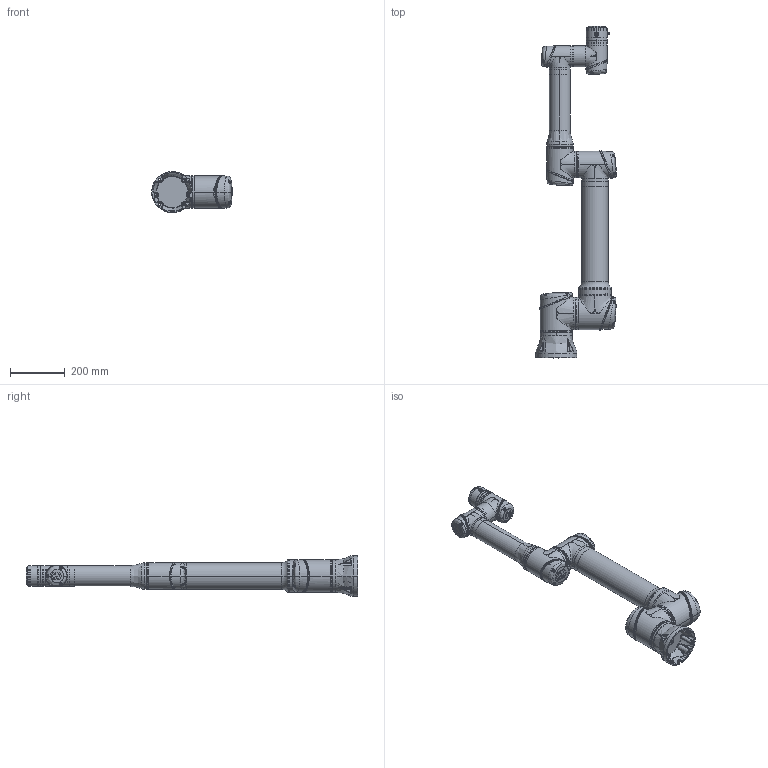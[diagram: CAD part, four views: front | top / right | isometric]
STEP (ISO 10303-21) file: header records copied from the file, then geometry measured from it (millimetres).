
FILE_DESCRIPTION (( 'STEP AP214' ), '1' );
FILE_NAME ('CS_掛极CS66AZ_V1.3.STEP', '2025-11-17T10:57:53', ( '' ), ( '' ), 'SwSTEP 2.0', 'SolidWorks 2020', '' );
FILE_SCHEMA (( 'AUTOMOTIVE_DESIGN' ));
Length unit declared in the file: millimetre
Products named in the file (8): CS66AZ_Link5; CS66AZ_Link3; CS66AZ_Link1; CS66AZ_Link4; CS_掛极CS66AZ_V1.3; CS66AZ_Base; CS66AZ_Link2; CS66F_藺傷
Assembly tree (7 placements, depth 2):
  CS_掛极CS66AZ_V1.3
    CS66AZ_Base
    CS66AZ_Link1
    CS66AZ_Link2
    CS66AZ_Link3
    CS66AZ_Link4
    CS66AZ_Link5
    CS66F_藺傷
Bounding box: 293.79 x 1211 x 149.7 mm (x, y, z)
Volume: 10568011.8 mm3; surface area: 877625.7 mm2
Topology: 21 solids, 154 shells, 6517 faces, 15924 edges, 9521 vertices
Faces by surface type: bspline 3571, plane 1173, cylinder 897, cone 689, torus 108, sphere 79
Entity records: 789029 total; most frequent: CARTESIAN_POINT 662098, ORIENTED_EDGE 31015, DIRECTION 15936, EDGE_CURVE 15509, VERTEX_POINT 9500, B_SPLINE_CURVE_WITH_KNOTS 8788, EDGE_LOOP 6822, AXIS2_PLACEMENT_3D 6566
